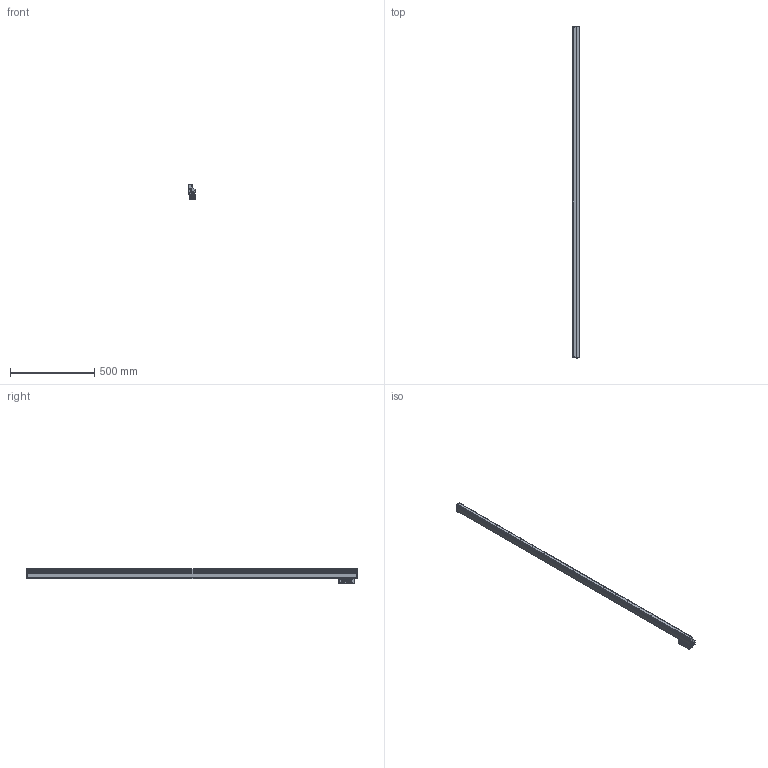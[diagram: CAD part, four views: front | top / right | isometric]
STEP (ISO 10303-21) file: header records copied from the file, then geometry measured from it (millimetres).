
FILE_DESCRIPTION(('Creo Elements/Direct Modeling STEP Export'),'2;1');
FILE_NAME('AT1123-1840.stp','2018-10-12T 9:32:39',(''),(''),'Creo Elements/Direct Modeling STEP processor for AP214 (Solid Model)','Creo Elements/Direct Modeling 18.1B 29-Sep-2012 (C) Parametric Technology GmbH','');
FILE_SCHEMA(('AUTOMOTIVE_DESIGN { 1 0 10303 214 1 1 1 1 }'));
Products named in the file (3): Scale_1840; DetectorHead; AT1123-1840
Assembly tree (2 placements, depth 2):
  AT1123-1840
    DetectorHead
    Scale_1840
Bounding box: 37 x 1968.31 x 85 mm (x, y, z)
Volume: 75071.2 mm3; surface area: 440195.3 mm2
Topology: 1 solids, 2 shells, 3374 faces, 9090 edges, 5909 vertices
Faces by surface type: plane 1969, cylinder 1169, cone 134, torus 69, bspline 13, sphere 12, extrusion 8
Entity records: 108285 total; most frequent: CARTESIAN_POINT 20200, ORIENTED_EDGE 18300, DIRECTION 17177, EDGE_CURVE 9071, VERTEX_POINT 5909, VECTOR 5795, LINE 5787, AXIS2_PLACEMENT_3D 5691
